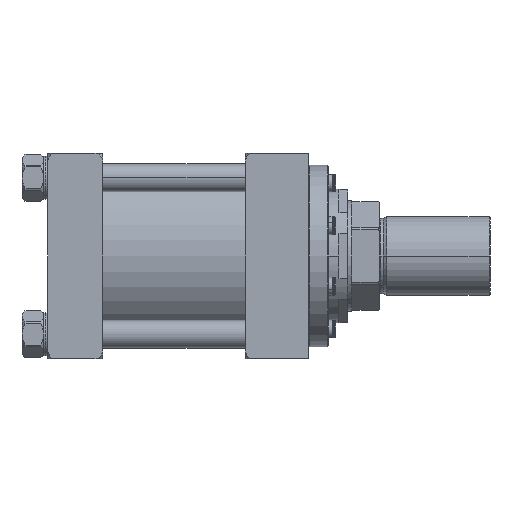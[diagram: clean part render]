
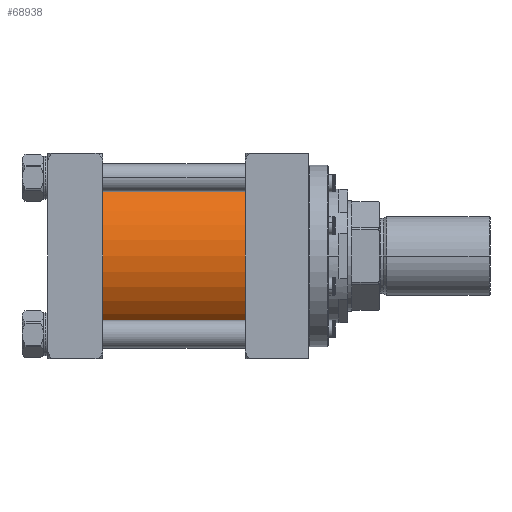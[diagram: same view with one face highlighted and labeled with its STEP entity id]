
A CAD part, front view. The second image highlights one B-rep face of the part: STEP entity #68938.
In plain terms, the highlighted cylindrical face has radius 73.025 mm (diameter 146.05 mm), a partial arc.
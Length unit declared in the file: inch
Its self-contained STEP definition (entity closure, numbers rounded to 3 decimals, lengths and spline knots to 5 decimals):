
#1136 = CIRCLE ( 'NONE', #11742, 2.875 ) ;
#2066 = DIRECTION ( 'NONE',  ( 1., 0., 0. ) ) ;
#2233 = EDGE_CURVE ( 'NONE', #72120, #74622, #16648, .T. ) ;
#2292 = DIRECTION ( 'NONE',  ( 1., 0., 0. ) ) ;
#6778 = CARTESIAN_POINT ( 'NONE',  ( -9., 0., 2.875 ) ) ;
#7224 = ORIENTED_EDGE ( 'NONE', *, *, #19227, .F. ) ;
#8531 = CARTESIAN_POINT ( 'NONE',  ( -9., 0., 2.875 ) ) ;
#9573 = EDGE_CURVE ( 'NONE', #72120, #31690, #40014, .T. ) ;
#10875 = ORIENTED_EDGE ( 'NONE', *, *, #9573, .F. ) ;
#11742 = AXIS2_PLACEMENT_3D ( 'NONE', #28029, #33410, #58704 ) ;
#11910 = FACE_OUTER_BOUND ( 'NONE', #54057, .T. ) ;
#14372 = DIRECTION ( 'NONE',  ( 1., 0., 0. ) ) ;
#14526 = VECTOR ( 'NONE', #60888, 39.37008 ) ;
#15201 = CARTESIAN_POINT ( 'NONE',  ( -9., 0., 0. ) ) ;
#16648 = CIRCLE ( 'NONE', #28606, 2.875 ) ;
#19227 = EDGE_CURVE ( 'NONE', #31690, #78359, #1136, .T. ) ;
#20205 = AXIS2_PLACEMENT_3D ( 'NONE', #15201, #14372, #45512 ) ;
#28029 = CARTESIAN_POINT ( 'NONE',  ( -4., 0., 0. ) ) ;
#28579 = LINE ( 'NONE', #53911, #14526 ) ;
#28606 = AXIS2_PLACEMENT_3D ( 'NONE', #65093, #2066, #33109 ) ;
#31690 = VERTEX_POINT ( 'NONE', #66563 ) ;
#33109 = DIRECTION ( 'NONE',  ( 0., 1., 0. ) ) ;
#33410 = DIRECTION ( 'NONE',  ( 1., 0., 0. ) ) ;
#40014 = LINE ( 'NONE', #8531, #77212 ) ;
#45512 = DIRECTION ( 'NONE',  ( 0., 0., -1. ) ) ;
#51116 = EDGE_CURVE ( 'NONE', #74622, #78359, #28579, .T. ) ;
#52088 = ORIENTED_EDGE ( 'NONE', *, *, #51116, .T. ) ;
#53911 = CARTESIAN_POINT ( 'NONE',  ( -9., 0., -2.875 ) ) ;
#54057 = EDGE_LOOP ( 'NONE', ( #10875, #80196, #52088, #7224 ) ) ;
#57329 = CARTESIAN_POINT ( 'NONE',  ( -9., 0., -2.875 ) ) ;
#58704 = DIRECTION ( 'NONE',  ( 0., 1., 0. ) ) ;
#60888 = DIRECTION ( 'NONE',  ( 1., 0., 0. ) ) ;
#65093 = CARTESIAN_POINT ( 'NONE',  ( -9., 0., 0. ) ) ;
#66563 = CARTESIAN_POINT ( 'NONE',  ( -4., 0., 2.875 ) ) ;
#68938 = ADVANCED_FACE ( 'NONE', ( #11910 ), #74987, .T. ) ;
#71508 = CARTESIAN_POINT ( 'NONE',  ( -4., 0., -2.875 ) ) ;
#72120 = VERTEX_POINT ( 'NONE', #6778 ) ;
#74622 = VERTEX_POINT ( 'NONE', #57329 ) ;
#74987 = CYLINDRICAL_SURFACE ( 'NONE', #20205, 2.875 ) ;
#77212 = VECTOR ( 'NONE', #2292, 39.37008 ) ;
#78359 = VERTEX_POINT ( 'NONE', #71508 ) ;
#80196 = ORIENTED_EDGE ( 'NONE', *, *, #2233, .T. ) ;
